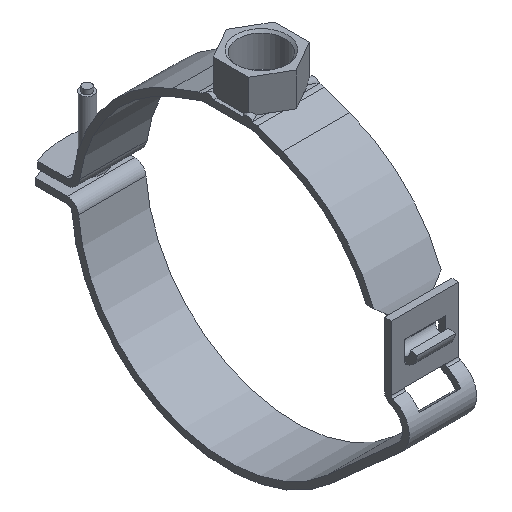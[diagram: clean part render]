
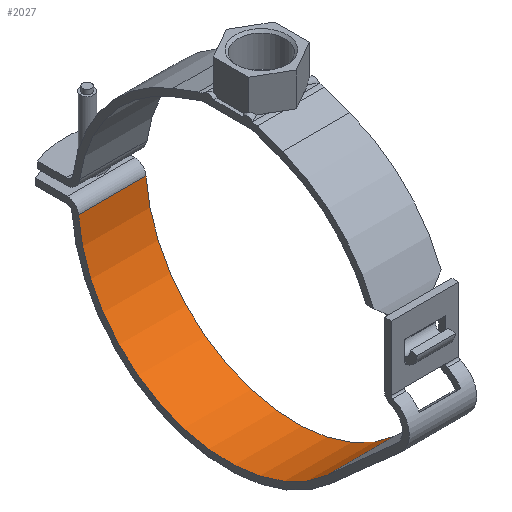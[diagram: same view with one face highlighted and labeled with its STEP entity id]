
A CAD part, isometric view. The second image highlights one B-rep face of the part: STEP entity #2027.
In plain terms, the highlighted cylindrical face has radius 66.5 mm (diameter 133 mm), a partial arc.
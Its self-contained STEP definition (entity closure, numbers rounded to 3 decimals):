
#190=LINE('',#3381,#375);
#191=LINE('',#3383,#376);
#375=VECTOR('',#2754,30.);
#376=VECTOR('',#2757,30.);
#556=FACE_OUTER_BOUND('',#675,.T.);
#675=EDGE_LOOP('',(#1706,#1707,#1708,#1709));
#761=CIRCLE('',#2171,66.5);
#764=CIRCLE('',#2175,66.5);
#938=VERTEX_POINT('',#3263);
#939=VERTEX_POINT('',#3265);
#942=VERTEX_POINT('',#3273);
#943=VERTEX_POINT('',#3275);
#1176=EDGE_CURVE('',#938,#939,#761,.T.);
#1181=EDGE_CURVE('',#942,#943,#764,.T.);
#1236=EDGE_CURVE('',#938,#943,#190,.T.);
#1237=EDGE_CURVE('',#939,#942,#191,.T.);
#1706=ORIENTED_EDGE('',*,*,#1236,.T.);
#1707=ORIENTED_EDGE('',*,*,#1181,.F.);
#1708=ORIENTED_EDGE('',*,*,#1237,.F.);
#1709=ORIENTED_EDGE('',*,*,#1176,.F.);
#1829=CYLINDRICAL_SURFACE('',#2222,66.5);
#2027=ADVANCED_FACE('',(#556),#1829,.F.);
#2171=AXIS2_PLACEMENT_3D('',#3266,#2623,#2624);
#2175=AXIS2_PLACEMENT_3D('',#3276,#2633,#2634);
#2222=AXIS2_PLACEMENT_3D('',#3382,#2755,#2756);
#2623=DIRECTION('center_axis',(1.,0.,0.));
#2624=DIRECTION('ref_axis',(0.,0.667,0.745));
#2633=DIRECTION('center_axis',(-1.,0.,0.));
#2634=DIRECTION('ref_axis',(0.,0.667,0.745));
#2754=DIRECTION('',(1.,0.,0.));
#2755=DIRECTION('center_axis',(1.,0.,0.));
#2756=DIRECTION('ref_axis',(0.,0.667,0.745));
#2757=DIRECTION('',(1.,0.,0.));
#3263=CARTESIAN_POINT('',(-15.,-44.382,-49.522));
#3265=CARTESIAN_POINT('',(-15.,66.337,-4.65));
#3266=CARTESIAN_POINT('Origin',(-15.,0.,0.));
#3273=CARTESIAN_POINT('',(15.,66.337,-4.65));
#3275=CARTESIAN_POINT('',(15.,-44.382,-49.522));
#3276=CARTESIAN_POINT('Origin',(15.,0.,0.));
#3381=CARTESIAN_POINT('',(0.,-44.382,-49.522));
#3382=CARTESIAN_POINT('Origin',(0.,0.,0.));
#3383=CARTESIAN_POINT('',(0.,66.337,-4.65));
